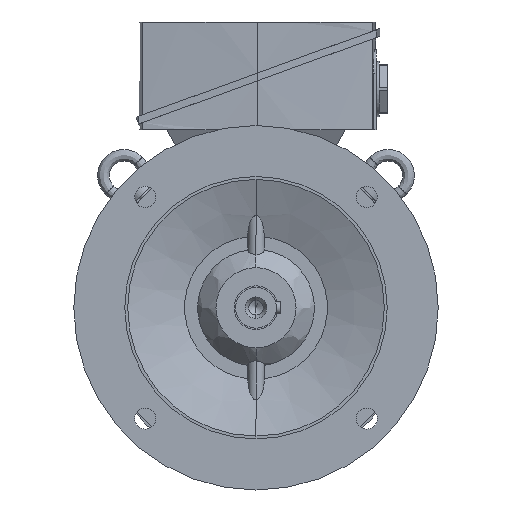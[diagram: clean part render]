
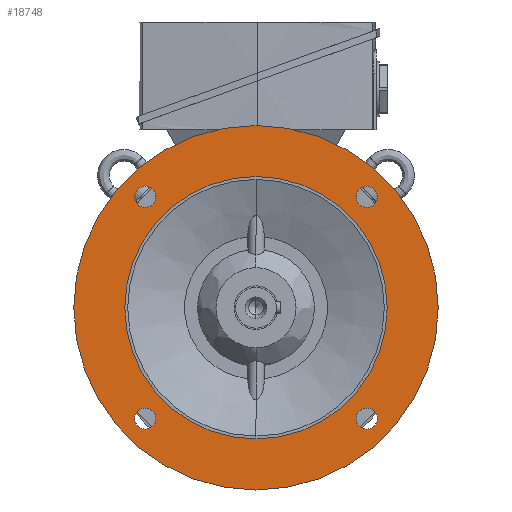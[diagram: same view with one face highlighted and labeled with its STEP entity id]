
A CAD part, left-side view. The second image highlights one B-rep face of the part: STEP entity #18748.
In plain terms, the highlighted planar face has unit normal (-1, 0, 0).
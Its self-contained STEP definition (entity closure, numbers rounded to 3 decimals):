
#411 = DIRECTION ( 'NONE',  ( 0., 0., 1. ) ) ;
#609 = PLANE ( 'NONE',  #26016 ) ;
#1154 = CARTESIAN_POINT ( 'NONE',  ( -40., 0., 125. ) ) ;
#1229 = ORIENTED_EDGE ( 'NONE', *, *, #22897, .T. ) ;
#1445 = AXIS2_PLACEMENT_3D ( 'NONE', #20963, #5801, #23489 ) ;
#1571 = VERTEX_POINT ( 'NONE', #20532 ) ;
#2374 = CIRCLE ( 'NONE', #31021, 125. ) ;
#2694 = ORIENTED_EDGE ( 'NONE', *, *, #6203, .F. ) ;
#3186 = EDGE_CURVE ( 'NONE', #15465, #1571, #14833, .T. ) ;
#3568 = VERTEX_POINT ( 'NONE', #16662 ) ;
#3597 = ORIENTED_EDGE ( 'NONE', *, *, #16339, .T. ) ;
#3958 = EDGE_CURVE ( 'NONE', #26608, #3568, #11713, .T. ) ;
#4180 = CARTESIAN_POINT ( 'NONE',  ( -40., -76.014, 76.014 ) ) ;
#4254 = CIRCLE ( 'NONE', #23874, 7.25 ) ;
#4472 = CARTESIAN_POINT ( 'NONE',  ( -40., 76.014, -68.764 ) ) ;
#4766 = CIRCLE ( 'NONE', #1445, 90. ) ;
#4917 = ORIENTED_EDGE ( 'NONE', *, *, #20233, .F. ) ;
#4945 = VERTEX_POINT ( 'NONE', #8094 ) ;
#5173 = EDGE_LOOP ( 'NONE', ( #32762, #23996 ) ) ;
#5252 = FACE_BOUND ( 'NONE', #5173, .T. ) ;
#5590 = CARTESIAN_POINT ( 'NONE',  ( -40., 76.014, -83.264 ) ) ;
#5801 = DIRECTION ( 'NONE',  ( 1., 0., 0. ) ) ;
#6096 = AXIS2_PLACEMENT_3D ( 'NONE', #29668, #14569, #32200 ) ;
#6171 = AXIS2_PLACEMENT_3D ( 'NONE', #24183, #9091, #26737 ) ;
#6203 = EDGE_CURVE ( 'NONE', #22263, #15826, #2374, .T. ) ;
#6282 = AXIS2_PLACEMENT_3D ( 'NONE', #4180, #21928, #6783 ) ;
#6373 = CIRCLE ( 'NONE', #22881, 125. ) ;
#6783 = DIRECTION ( 'NONE',  ( 0., 0., -1. ) ) ;
#6806 = CARTESIAN_POINT ( 'NONE',  ( -40., 76.014, 76.014 ) ) ;
#7105 = ORIENTED_EDGE ( 'NONE', *, *, #7837, .T. ) ;
#7826 = AXIS2_PLACEMENT_3D ( 'NONE', #13673, #31292, #16181 ) ;
#7837 = EDGE_CURVE ( 'NONE', #26764, #24479, #4254, .T. ) ;
#7958 = DIRECTION ( 'NONE',  ( 1., 0., 0. ) ) ;
#8094 = CARTESIAN_POINT ( 'NONE',  ( -40., 76.014, 83.264 ) ) ;
#8426 = CARTESIAN_POINT ( 'NONE',  ( -40., 0., -125. ) ) ;
#8515 = CARTESIAN_POINT ( 'NONE',  ( -40., 107.5, 0. ) ) ;
#8796 = CARTESIAN_POINT ( 'NONE',  ( -40., -76.014, 83.264 ) ) ;
#9003 = CARTESIAN_POINT ( 'NONE',  ( -40., 76.014, 76.014 ) ) ;
#9091 = DIRECTION ( 'NONE',  ( 1., 0., 0. ) ) ;
#9271 = DIRECTION ( 'NONE',  ( 1., 0., 0. ) ) ;
#9309 = VERTEX_POINT ( 'NONE', #5590 ) ;
#9363 = DIRECTION ( 'NONE',  ( 0., 0., -1. ) ) ;
#9506 = DIRECTION ( 'NONE',  ( 1., 0., 0. ) ) ;
#9648 = CIRCLE ( 'NONE', #29033, 7.25 ) ;
#9892 = CIRCLE ( 'NONE', #6171, 7.25 ) ;
#11236 = FACE_BOUND ( 'NONE', #28083, .T. ) ;
#11350 = CARTESIAN_POINT ( 'NONE',  ( -40., -76.014, -68.764 ) ) ;
#11422 = CIRCLE ( 'NONE', #27368, 7.25 ) ;
#11554 = DIRECTION ( 'NONE',  ( 0., 0., -1. ) ) ;
#11713 = CIRCLE ( 'NONE', #6096, 90. ) ;
#11858 = AXIS2_PLACEMENT_3D ( 'NONE', #24357, #9271, #26921 ) ;
#12006 = CARTESIAN_POINT ( 'NONE',  ( -40., 76.014, -76.014 ) ) ;
#13038 = CARTESIAN_POINT ( 'NONE',  ( -40., 0., -90. ) ) ;
#13598 = DIRECTION ( 'NONE',  ( 0., 0., 1. ) ) ;
#13673 = CARTESIAN_POINT ( 'NONE',  ( -40., 76.014, -76.014 ) ) ;
#14536 = DIRECTION ( 'NONE',  ( 0., 0., -1. ) ) ;
#14569 = DIRECTION ( 'NONE',  ( 1., 0., 0. ) ) ;
#14741 = CARTESIAN_POINT ( 'NONE',  ( -40., 76.014, 68.764 ) ) ;
#14833 = CIRCLE ( 'NONE', #6282, 7.25 ) ;
#14982 = EDGE_LOOP ( 'NONE', ( #17245, #15222 ) ) ;
#15222 = ORIENTED_EDGE ( 'NONE', *, *, #3958, .T. ) ;
#15465 = VERTEX_POINT ( 'NONE', #8796 ) ;
#15549 = CIRCLE ( 'NONE', #11858, 7.25 ) ;
#15690 = DIRECTION ( 'NONE',  ( 1., 0., 0. ) ) ;
#15826 = VERTEX_POINT ( 'NONE', #1154 ) ;
#16181 = DIRECTION ( 'NONE',  ( 0., 0., -1. ) ) ;
#16339 = EDGE_CURVE ( 'NONE', #18084, #4945, #21803, .T. ) ;
#16662 = CARTESIAN_POINT ( 'NONE',  ( -40., 0., 90. ) ) ;
#17245 = ORIENTED_EDGE ( 'NONE', *, *, #29633, .T. ) ;
#17563 = ORIENTED_EDGE ( 'NONE', *, *, #19104, .T. ) ;
#17929 = FACE_BOUND ( 'NONE', #28909, .T. ) ;
#18084 = VERTEX_POINT ( 'NONE', #14741 ) ;
#18748 = ADVANCED_FACE ( 'NONE', ( #32907, #31333, #5252, #24641, #17929, #11236 ), #609, .T. ) ;
#18859 = EDGE_CURVE ( 'NONE', #24479, #26764, #15549, .T. ) ;
#19104 = EDGE_CURVE ( 'NONE', #9309, #22489, #22649, .T. ) ;
#20233 = EDGE_CURVE ( 'NONE', #15826, #22263, #6373, .T. ) ;
#20532 = CARTESIAN_POINT ( 'NONE',  ( -40., -76.014, 68.764 ) ) ;
#20963 = CARTESIAN_POINT ( 'NONE',  ( -40., 0., 0. ) ) ;
#21685 = EDGE_CURVE ( 'NONE', #1571, #15465, #9892, .T. ) ;
#21803 = CIRCLE ( 'NONE', #32237, 7.25 ) ;
#21928 = DIRECTION ( 'NONE',  ( 1., 0., 0. ) ) ;
#22263 = VERTEX_POINT ( 'NONE', #8426 ) ;
#22489 = VERTEX_POINT ( 'NONE', #4472 ) ;
#22649 = CIRCLE ( 'NONE', #7826, 7.25 ) ;
#22881 = AXIS2_PLACEMENT_3D ( 'NONE', #30816, #15690, #411 ) ;
#22897 = EDGE_CURVE ( 'NONE', #4945, #18084, #11422, .T. ) ;
#23081 = CARTESIAN_POINT ( 'NONE',  ( -40., -76.014, -76.014 ) ) ;
#23489 = DIRECTION ( 'NONE',  ( 0., 0., 1. ) ) ;
#23874 = AXIS2_PLACEMENT_3D ( 'NONE', #23081, #7958, #25613 ) ;
#23996 = ORIENTED_EDGE ( 'NONE', *, *, #3186, .T. ) ;
#24092 = EDGE_LOOP ( 'NONE', ( #4917, #2694 ) ) ;
#24183 = CARTESIAN_POINT ( 'NONE',  ( -40., -76.014, 76.014 ) ) ;
#24357 = CARTESIAN_POINT ( 'NONE',  ( -40., -76.014, -76.014 ) ) ;
#24461 = DIRECTION ( 'NONE',  ( 1., 0., 0. ) ) ;
#24479 = VERTEX_POINT ( 'NONE', #31402 ) ;
#24504 = ORIENTED_EDGE ( 'NONE', *, *, #18859, .T. ) ;
#24621 = CARTESIAN_POINT ( 'NONE',  ( -40., 0., 0. ) ) ;
#24641 = FACE_BOUND ( 'NONE', #26302, .T. ) ;
#25613 = DIRECTION ( 'NONE',  ( 0., 0., -1. ) ) ;
#26016 = AXIS2_PLACEMENT_3D ( 'NONE', #8515, #28693, #13598 ) ;
#26302 = EDGE_LOOP ( 'NONE', ( #3597, #1229 ) ) ;
#26608 = VERTEX_POINT ( 'NONE', #13038 ) ;
#26663 = DIRECTION ( 'NONE',  ( 1., 0., 0. ) ) ;
#26737 = DIRECTION ( 'NONE',  ( 0., 0., -1. ) ) ;
#26764 = VERTEX_POINT ( 'NONE', #11350 ) ;
#26921 = DIRECTION ( 'NONE',  ( 0., 0., -1. ) ) ;
#27158 = DIRECTION ( 'NONE',  ( 0., 0., 1. ) ) ;
#27368 = AXIS2_PLACEMENT_3D ( 'NONE', #6806, #24461, #9363 ) ;
#28083 = EDGE_LOOP ( 'NONE', ( #24504, #7105 ) ) ;
#28169 = EDGE_CURVE ( 'NONE', #22489, #9309, #9648, .T. ) ;
#28693 = DIRECTION ( 'NONE',  ( -1., 0., 0. ) ) ;
#28909 = EDGE_LOOP ( 'NONE', ( #17563, #29187 ) ) ;
#29033 = AXIS2_PLACEMENT_3D ( 'NONE', #12006, #29631, #14536 ) ;
#29187 = ORIENTED_EDGE ( 'NONE', *, *, #28169, .T. ) ;
#29631 = DIRECTION ( 'NONE',  ( 1., 0., 0. ) ) ;
#29633 = EDGE_CURVE ( 'NONE', #3568, #26608, #4766, .T. ) ;
#29668 = CARTESIAN_POINT ( 'NONE',  ( -40., 0., 0. ) ) ;
#30816 = CARTESIAN_POINT ( 'NONE',  ( -40., 0., 0. ) ) ;
#31021 = AXIS2_PLACEMENT_3D ( 'NONE', #24621, #9506, #27158 ) ;
#31292 = DIRECTION ( 'NONE',  ( 1., 0., 0. ) ) ;
#31333 = FACE_OUTER_BOUND ( 'NONE', #24092, .T. ) ;
#31402 = CARTESIAN_POINT ( 'NONE',  ( -40., -76.014, -83.264 ) ) ;
#32200 = DIRECTION ( 'NONE',  ( 0., 0., 1. ) ) ;
#32237 = AXIS2_PLACEMENT_3D ( 'NONE', #9003, #26663, #11554 ) ;
#32762 = ORIENTED_EDGE ( 'NONE', *, *, #21685, .T. ) ;
#32907 = FACE_BOUND ( 'NONE', #14982, .T. ) ;
